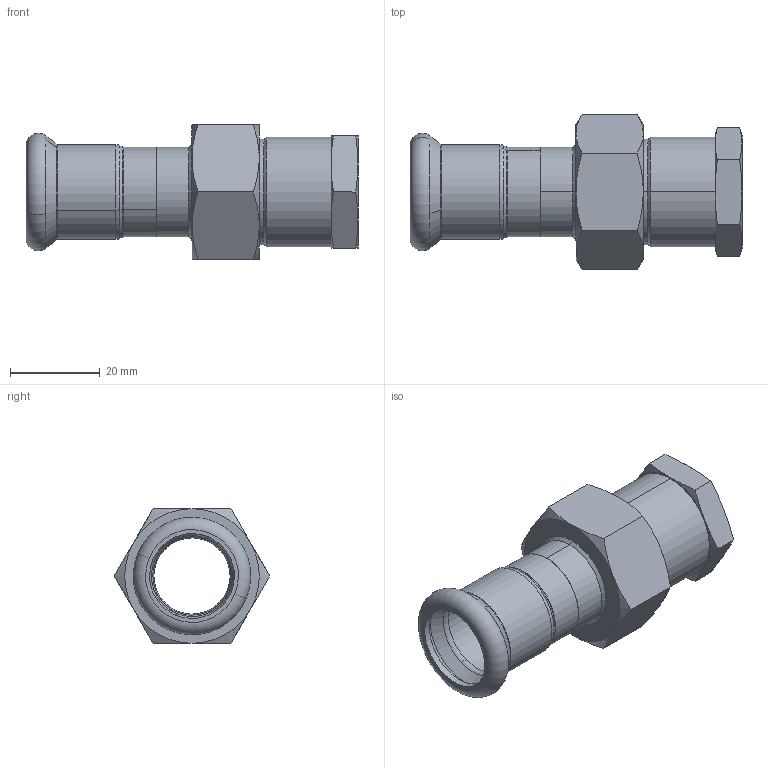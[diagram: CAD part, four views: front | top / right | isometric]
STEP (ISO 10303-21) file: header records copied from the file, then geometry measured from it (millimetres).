
FILE_DESCRIPTION (( 'STEP AP203' ), '1' );
FILE_NAME ('GDA5453.STEP', '2019-01-17T07:26:04', ( '' ), ( '' ), 'SwSTEP 2.0', 'SolidWorks 2015', '' );
FILE_SCHEMA (( 'CONFIG_CONTROL_DESIGN' ));
Length unit declared in the file: millimetre
Products named in the file (6): Imported; 囀俋佪蛌遙諉芛0.75-0.5_1; T-ｉ-01-18; GDA5453; 18｡ﾁ__1; ZL-Ⅰ-01×_
Assembly tree (5 placements, depth 2):
  GDA5453
    18｡ﾁ__1
    T-ｉ-01-18
    ZL-Ⅰ-01×_
    囀俋佪蛌遙諉芛0.75-0.5_1
    Imported
Bounding box: 74 x 34.64 x 30 mm (x, y, z)
Volume: 17245.4 mm3; surface area: 14891.9 mm2
Topology: 5 solids, 5 shells, 129 faces, 278 edges, 165 vertices
Faces by surface type: cone 49, cylinder 36, plane 28, torus 16
Entity records: 4297 total; most frequent: CARTESIAN_POINT 820, DIRECTION 661, ORIENTED_EDGE 556, AXIS2_PLACEMENT_3D 294, EDGE_CURVE 278, VERTEX_POINT 165, CIRCLE 157, EDGE_LOOP 145
